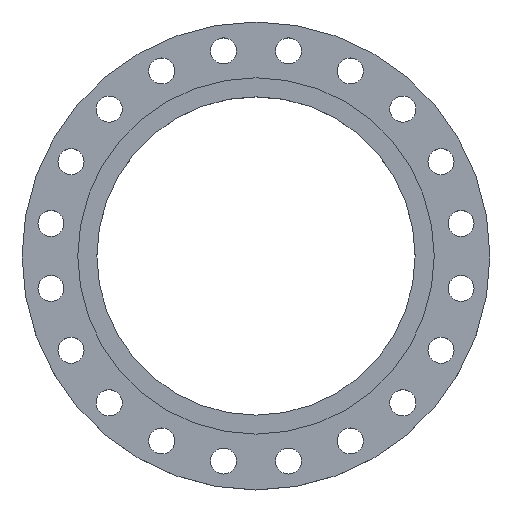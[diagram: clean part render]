
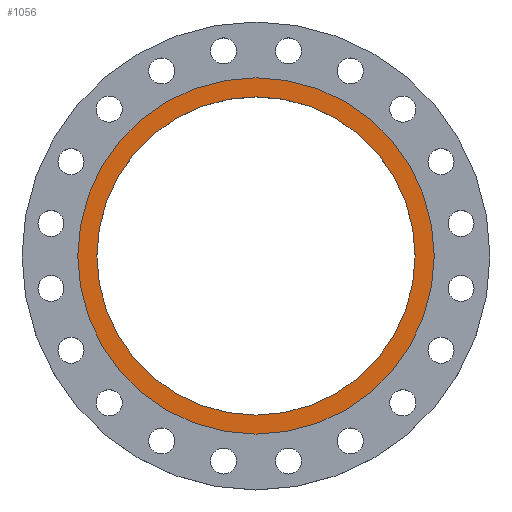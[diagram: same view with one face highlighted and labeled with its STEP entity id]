
A CAD part, top view. The second image highlights one B-rep face of the part: STEP entity #1056.
In plain terms, the highlighted planar face has unit normal (0, 0, 1).
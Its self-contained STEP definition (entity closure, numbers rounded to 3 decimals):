
#129 = AXIS2_PLACEMENT_3D ( 'NONE', #1613, #282, #897 ) ;
#145 = CARTESIAN_POINT ( 'NONE',  ( 256.75, 0., 0. ) ) ;
#150 = EDGE_CURVE ( 'NONE', #1671, #1301, #556, .T. ) ;
#157 = DIRECTION ( 'NONE',  ( 0., 0., -1. ) ) ;
#226 = VERTEX_POINT ( 'NONE', #145 ) ;
#251 = AXIS2_PLACEMENT_3D ( 'NONE', #1820, #513, #1115 ) ;
#282 = DIRECTION ( 'NONE',  ( 0., 0., 1. ) ) ;
#350 = ORIENTED_EDGE ( 'NONE', *, *, #1147, .F. ) ;
#419 = DIRECTION ( 'NONE',  ( 0., 0., -1. ) ) ;
#431 = FACE_OUTER_BOUND ( 'NONE', #1648, .T. ) ;
#512 = VERTEX_POINT ( 'NONE', #1580 ) ;
#513 = DIRECTION ( 'NONE',  ( 0., 0., 1. ) ) ;
#530 = DIRECTION ( 'NONE',  ( 0., 0., 1. ) ) ;
#556 = CIRCLE ( 'NONE', #584, 287.5 ) ;
#584 = AXIS2_PLACEMENT_3D ( 'NONE', #1739, #419, #1025 ) ;
#644 = ORIENTED_EDGE ( 'NONE', *, *, #1718, .F. ) ;
#758 = DIRECTION ( 'NONE',  ( -1., 0., 0. ) ) ;
#808 = EDGE_LOOP ( 'NONE', ( #1505, #644 ) ) ;
#836 = CIRCLE ( 'NONE', #852, 287.5 ) ;
#852 = AXIS2_PLACEMENT_3D ( 'NONE', #1489, #157, #758 ) ;
#862 = EDGE_CURVE ( 'NONE', #226, #512, #998, .T. ) ;
#897 = DIRECTION ( 'NONE',  ( 1., 0., 0. ) ) ;
#998 = CIRCLE ( 'NONE', #1016, 256.75 ) ;
#1016 = AXIS2_PLACEMENT_3D ( 'NONE', #1831, #530, #1128 ) ;
#1025 = DIRECTION ( 'NONE',  ( -1., 0., 0. ) ) ;
#1038 = PLANE ( 'NONE',  #129 ) ;
#1056 = ADVANCED_FACE ( 'NONE', ( #1750, #431 ), #1038, .T. ) ;
#1100 = CARTESIAN_POINT ( 'NONE',  ( 287.5, 0., 0. ) ) ;
#1114 = ORIENTED_EDGE ( 'NONE', *, *, #150, .F. ) ;
#1115 = DIRECTION ( 'NONE',  ( 1., 0., 0. ) ) ;
#1128 = DIRECTION ( 'NONE',  ( 1., 0., 0. ) ) ;
#1147 = EDGE_CURVE ( 'NONE', #1301, #1671, #836, .T. ) ;
#1250 = CARTESIAN_POINT ( 'NONE',  ( -287.5, 0., 0. ) ) ;
#1301 = VERTEX_POINT ( 'NONE', #1250 ) ;
#1344 = CIRCLE ( 'NONE', #251, 256.75 ) ;
#1489 = CARTESIAN_POINT ( 'NONE',  ( 0., 0., 0. ) ) ;
#1505 = ORIENTED_EDGE ( 'NONE', *, *, #862, .F. ) ;
#1580 = CARTESIAN_POINT ( 'NONE',  ( -256.75, 0., 0. ) ) ;
#1613 = CARTESIAN_POINT ( 'NONE',  ( 0., 0., 0. ) ) ;
#1648 = EDGE_LOOP ( 'NONE', ( #350, #1114 ) ) ;
#1671 = VERTEX_POINT ( 'NONE', #1100 ) ;
#1718 = EDGE_CURVE ( 'NONE', #512, #226, #1344, .T. ) ;
#1739 = CARTESIAN_POINT ( 'NONE',  ( 0., 0., 0. ) ) ;
#1750 = FACE_BOUND ( 'NONE', #808, .T. ) ;
#1820 = CARTESIAN_POINT ( 'NONE',  ( 0., 0., 0. ) ) ;
#1831 = CARTESIAN_POINT ( 'NONE',  ( 0., 0., 0. ) ) ;
